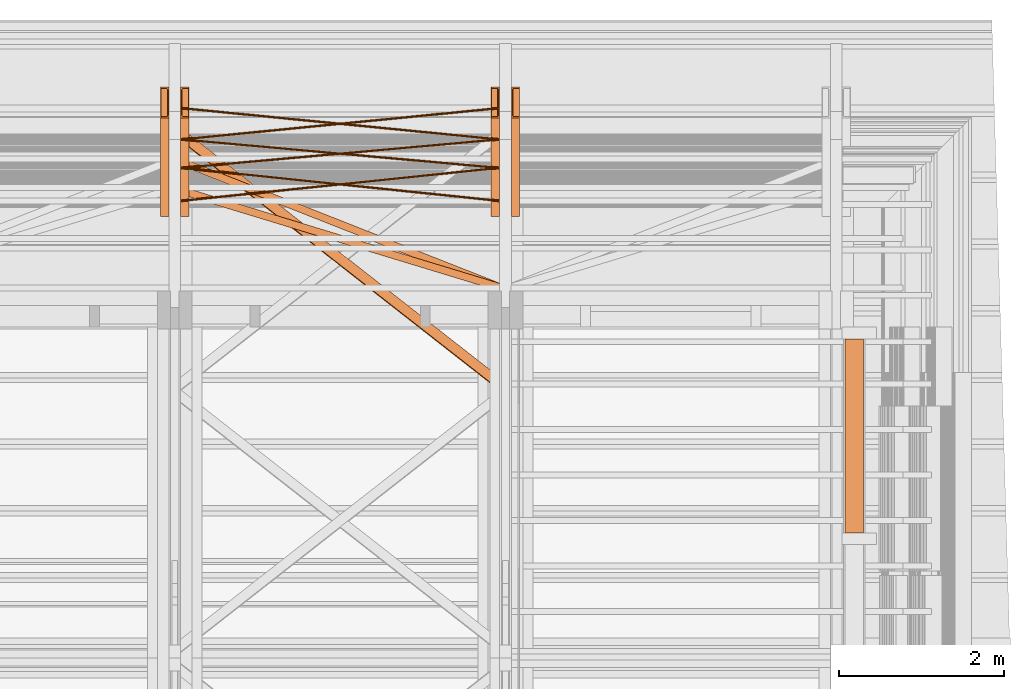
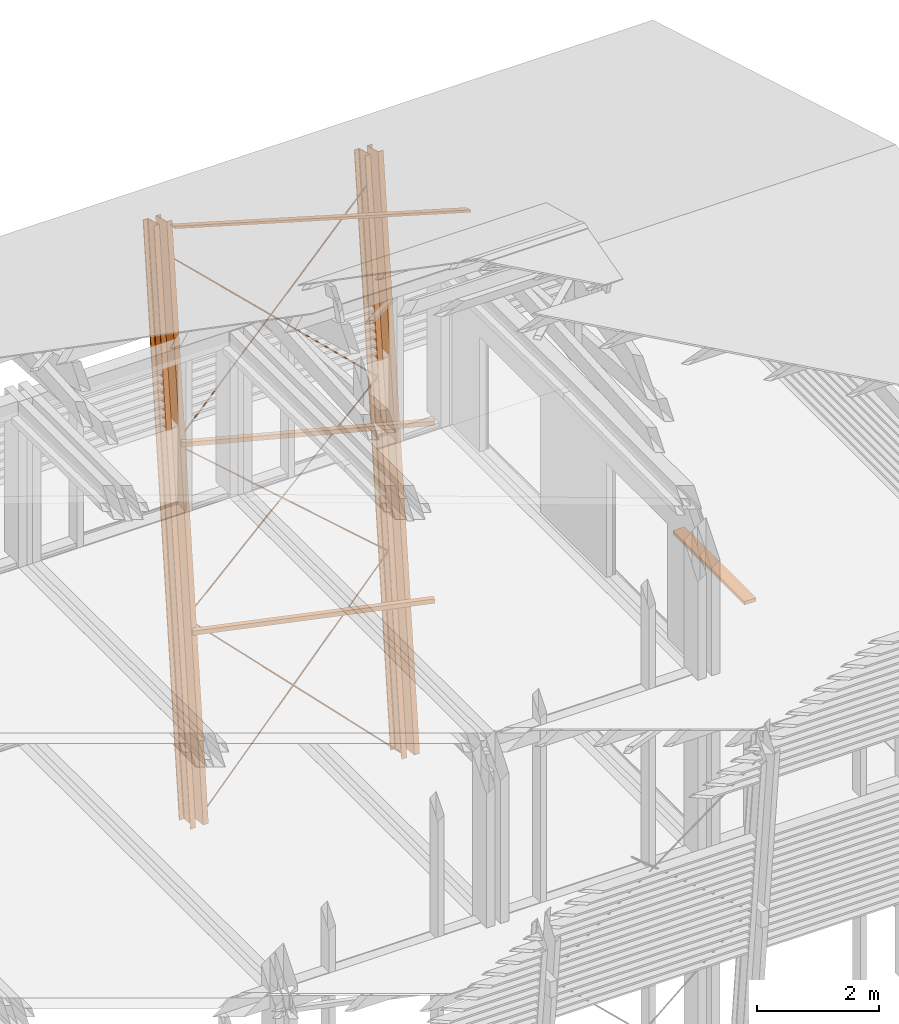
# One storey, part 47 of 48: 14 proxies.
"""IFC2X3 building model written with IfcOpenShell, lengths in metres."""

from ifc_helpers import new_model, si_unit, direction, frame, origin_with_axes, place, context, subcontext, project, spatial, faceted_brep, material, element, save


model = new_model("IFC2X3")

# Units and contexts
model_context = context("Model", 3, precision=1e-06, world=origin_with_axes(), true_north=direction((0.0, 1.0, 0.0)))
body_context = subcontext(model_context, "Body", "Model", "MODEL_VIEW")
ifc_project = project(units=[si_unit("LENGTHUNIT", "METRE"), si_unit("AREAUNIT", "SQUARE_METRE"), si_unit("VOLUMEUNIT", "CUBIC_METRE"), si_unit("PLANEANGLEUNIT", "RADIAN")], contexts=[model_context])

# Site, building, storey
site_placement = place(None, origin_with_axes())
site = spatial("IfcSite", under=ifc_project, at=site_placement, CompositionType="ELEMENT")
building_placement = place(site_placement, origin_with_axes())
building = spatial("IfcBuilding", under=site, at=building_placement, Name="Building 1", CompositionType="ELEMENT")
storey_placement = place(building_placement, origin_with_axes())
storey = spatial("IfcBuildingStorey", under=building, at=storey_placement, Name="Storey 1", CompositionType="ELEMENT", Elevation=0.0)

# Proxies
ifc_material_1 = material(Name="Acier")
proxy_1_placement = place(storey_placement, frame((65.4057437, -183.677965, 0.3), z_axis=(0.7050562, 0.0741265, 0.7052666), x_axis=(-0.7091514, 0.0736984, 0.7011938)))
element("IfcBuildingElementProxy", 1, at=proxy_1_placement, inside=storey, material=ifc_material_1, Name="CVLP", context=body_context, shape_type="Brep", body=[
    faceted_brep([(5.4036414, -0.0093969, 0.0034202), (0.0, -0.01, 0.0), (5.4036414, -0.01, 0.0), (0.0, -0.0093969, -0.0034202), (5.4036414, -0.0093969, -0.0034202), (0.0, -0.0076604, -0.0064279), (5.4036414, -0.0076604, -0.0064279), (0.0, -0.005, -0.0086603), (5.4036414, -0.005, -0.0086603), (0.0, -0.0017365, -0.0098481), (5.4036414, -0.0017365, -0.0098481), (0.0, 0.0017365, -0.0098481), (5.4036414, 0.0017365, -0.0098481), (0.0, 0.005, -0.0086603), (5.4036414, 0.005, -0.0086603), (0.0, 0.0076604, -0.0064279), (5.4036414, 0.0076604, -0.0064279), (0.0, 0.0093969, -0.0034202), (5.4036414, 0.0093969, -0.0034202), (0.0, 0.01, 0.0), (5.4036414, 0.01, 0.0), (0.0, 0.0093969, 0.0034202), (5.4036414, 0.0093969, 0.0034202), (0.0, 0.0076604, 0.0064279), (5.4036414, 0.0076604, 0.0064279), (0.0, 0.005, 0.0086603), (5.4036414, 0.005, 0.0086603), (0.0, 0.0017365, 0.0098481), (5.4036414, 0.0017365, 0.0098481), (0.0, -0.0017365, 0.0098481), (5.4036414, -0.0017365, 0.0098481), (0.0, -0.005, 0.0086603), (5.4036414, -0.005, 0.0086603), (0.0, -0.0076604, 0.0064279), (5.4036414, -0.0076604, 0.0064279), (0.0, -0.0093969, 0.0034202)], [[[0, 1, 2]], [[2, 1, 3]], [[2, 3, 4]], [[4, 3, 5]], [[4, 5, 6]], [[6, 5, 7]], [[6, 7, 8]], [[8, 7, 9]], [[8, 9, 10]], [[10, 9, 11]], [[10, 11, 12]], [[12, 11, 13]], [[12, 13, 14]], [[14, 13, 15]], [[14, 15, 16]], [[16, 15, 17]], [[16, 17, 18]], [[18, 17, 19]], [[18, 19, 20]], [[20, 19, 21]], [[20, 21, 22]], [[22, 21, 23]], [[22, 23, 24]], [[24, 23, 25]], [[24, 25, 26]], [[26, 25, 27]], [[26, 27, 28]], [[28, 27, 29]], [[28, 29, 30]], [[30, 29, 31]], [[30, 31, 32]], [[32, 31, 33]], [[32, 33, 34]], [[34, 33, 35]], [[34, 35, 0]], [[0, 35, 1]], [[10, 12, 8]], [[8, 12, 14]], [[8, 14, 6]], [[6, 14, 16]], [[6, 16, 4]], [[4, 16, 18]], [[4, 18, 2]], [[2, 18, 20]], [[2, 20, 0]], [[0, 20, 22]], [[0, 22, 34]], [[34, 22, 24]], [[34, 24, 32]], [[32, 24, 26]], [[32, 26, 30]], [[30, 26, 28]], [[29, 27, 31]], [[31, 27, 25]], [[31, 25, 33]], [[33, 25, 23]], [[33, 23, 35]], [[35, 23, 21]], [[35, 21, 1]], [[1, 21, 19]], [[1, 19, 3]], [[3, 19, 17]], [[3, 17, 5]], [[5, 17, 15]], [[5, 15, 7]], [[7, 15, 13]], [[7, 13, 9]], [[9, 13, 11]]]),
])
proxy_2_placement = place(storey_placement, frame((65.4057445, -183.279725, 4.089), z_axis=(0.6523288, 0.0792259, 0.753784), x_axis=(-0.7579361, 0.0681869, 0.6487553)))
element("IfcBuildingElementProxy", 2, at=proxy_2_placement, inside=storey, material=ifc_material_1, Name="CVLP", context=body_context, shape_type="Brep", body=[
    faceted_brep([(5.0558353, 0.0093969, -0.0034202), (0.0, 0.01, 0.0), (5.0558353, 0.01, 0.0), (0.0, 0.0093969, 0.0034202), (5.0558353, 0.0093969, 0.0034202), (0.0, 0.0076604, 0.0064279), (5.0558353, 0.0076604, 0.0064279), (0.0, 0.005, 0.0086603), (5.0558353, 0.005, 0.0086603), (0.0, 0.0017365, 0.0098481), (5.0558353, 0.0017365, 0.0098481), (0.0, -0.0017365, 0.0098481), (5.0558353, -0.0017365, 0.0098481), (0.0, -0.005, 0.0086603), (5.0558353, -0.005, 0.0086603), (0.0, -0.0076604, 0.0064279), (5.0558353, -0.0076604, 0.0064279), (0.0, -0.0093969, 0.0034202), (5.0558353, -0.0093969, 0.0034202), (0.0, -0.01, 0.0), (5.0558353, -0.01, 0.0), (0.0, -0.0093969, -0.0034202), (5.0558353, -0.0093969, -0.0034202), (0.0, -0.0076604, -0.0064279), (5.0558353, -0.0076604, -0.0064279), (0.0, -0.005, -0.0086603), (5.0558353, -0.005, -0.0086603), (0.0, -0.0017365, -0.0098481), (5.0558353, -0.0017365, -0.0098481), (0.0, 0.0017365, -0.0098481), (5.0558353, 0.0017365, -0.0098481), (0.0, 0.005, -0.0086603), (5.0558353, 0.005, -0.0086603), (0.0, 0.0076604, -0.0064279), (5.0558353, 0.0076604, -0.0064279), (0.0, 0.0093969, -0.0034202)], [[[0, 1, 2]], [[2, 1, 3]], [[2, 3, 4]], [[4, 3, 5]], [[4, 5, 6]], [[6, 5, 7]], [[6, 7, 8]], [[8, 7, 9]], [[8, 9, 10]], [[10, 9, 11]], [[10, 11, 12]], [[12, 11, 13]], [[12, 13, 14]], [[14, 13, 15]], [[14, 15, 16]], [[16, 15, 17]], [[16, 17, 18]], [[18, 17, 19]], [[18, 19, 20]], [[20, 19, 21]], [[20, 21, 22]], [[22, 21, 23]], [[22, 23, 24]], [[24, 23, 25]], [[24, 25, 26]], [[26, 25, 27]], [[26, 27, 28]], [[28, 27, 29]], [[28, 29, 30]], [[30, 29, 31]], [[30, 31, 32]], [[32, 31, 33]], [[32, 33, 34]], [[34, 33, 35]], [[34, 35, 0]], [[0, 35, 1]], [[10, 12, 8]], [[8, 12, 14]], [[8, 14, 6]], [[6, 14, 16]], [[6, 16, 4]], [[4, 16, 18]], [[4, 18, 2]], [[2, 18, 20]], [[2, 20, 0]], [[0, 20, 22]], [[0, 22, 34]], [[34, 22, 24]], [[34, 24, 32]], [[32, 24, 26]], [[32, 26, 30]], [[30, 26, 28]], [[29, 27, 31]], [[31, 27, 25]], [[31, 25, 33]], [[33, 25, 23]], [[33, 23, 35]], [[35, 23, 21]], [[35, 21, 1]], [[1, 21, 19]], [[1, 19, 3]], [[3, 19, 17]], [[3, 17, 5]], [[5, 17, 15]], [[5, 15, 7]], [[7, 15, 13]], [[7, 13, 9]], [[9, 13, 11]]]),
])
proxy_3_placement = place(storey_placement, frame((61.5737437, -183.279725, 4.089), z_axis=(-0.6523288, 0.0792259, 0.753784), x_axis=(0.7579361, 0.0681869, 0.6487553)))
element("IfcBuildingElementProxy", 3, at=proxy_3_placement, inside=storey, material=ifc_material_1, Name="CVLP", context=body_context, shape_type="Brep", body=[
    faceted_brep([(5.0558353, -0.0093969, 0.0034202), (0.0, -0.01, 0.0), (5.0558353, -0.01, 0.0), (0.0, -0.0093969, -0.0034202), (5.0558353, -0.0093969, -0.0034202), (0.0, -0.0076604, -0.0064279), (5.0558353, -0.0076604, -0.0064279), (0.0, -0.005, -0.0086603), (5.0558353, -0.005, -0.0086603), (0.0, -0.0017365, -0.0098481), (5.0558353, -0.0017365, -0.0098481), (0.0, 0.0017365, -0.0098481), (5.0558353, 0.0017365, -0.0098481), (0.0, 0.005, -0.0086603), (5.0558353, 0.005, -0.0086603), (0.0, 0.0076604, -0.0064279), (5.0558353, 0.0076604, -0.0064279), (0.0, 0.0093969, -0.0034202), (5.0558353, 0.0093969, -0.0034202), (0.0, 0.01, 0.0), (5.0558353, 0.01, 0.0), (0.0, 0.0093969, 0.0034202), (5.0558353, 0.0093969, 0.0034202), (0.0, 0.0076604, 0.0064279), (5.0558353, 0.0076604, 0.0064279), (0.0, 0.005, 0.0086603), (5.0558353, 0.005, 0.0086603), (0.0, 0.0017365, 0.0098481), (5.0558353, 0.0017365, 0.0098481), (0.0, -0.0017365, 0.0098481), (5.0558353, -0.0017365, 0.0098481), (0.0, -0.005, 0.0086603), (5.0558353, -0.005, 0.0086603), (0.0, -0.0076604, 0.0064279), (5.0558353, -0.0076604, 0.0064279), (0.0, -0.0093969, 0.0034202)], [[[0, 1, 2]], [[2, 1, 3]], [[2, 3, 4]], [[4, 3, 5]], [[4, 5, 6]], [[6, 5, 7]], [[6, 7, 8]], [[8, 7, 9]], [[8, 9, 10]], [[10, 9, 11]], [[10, 11, 12]], [[12, 11, 13]], [[12, 13, 14]], [[14, 13, 15]], [[14, 15, 16]], [[16, 15, 17]], [[16, 17, 18]], [[18, 17, 19]], [[18, 19, 20]], [[20, 19, 21]], [[20, 21, 22]], [[22, 21, 23]], [[22, 23, 24]], [[24, 23, 25]], [[24, 25, 26]], [[26, 25, 27]], [[26, 27, 28]], [[28, 27, 29]], [[28, 29, 30]], [[30, 29, 31]], [[30, 31, 32]], [[32, 31, 33]], [[32, 33, 34]], [[34, 33, 35]], [[34, 35, 0]], [[0, 35, 1]], [[10, 12, 8]], [[8, 12, 14]], [[8, 14, 6]], [[6, 14, 16]], [[6, 16, 4]], [[4, 16, 18]], [[4, 18, 2]], [[2, 18, 20]], [[2, 20, 0]], [[0, 20, 22]], [[0, 22, 34]], [[34, 22, 24]], [[34, 24, 32]], [[32, 24, 26]], [[32, 26, 30]], [[30, 26, 28]], [[29, 27, 31]], [[31, 27, 25]], [[31, 25, 33]], [[33, 25, 23]], [[33, 23, 35]], [[35, 23, 21]], [[35, 21, 1]], [[1, 21, 19]], [[1, 19, 3]], [[3, 19, 17]], [[3, 17, 5]], [[5, 17, 15]], [[5, 15, 7]], [[7, 15, 13]], [[7, 13, 9]], [[9, 13, 11]]]),
])
proxy_4_placement = place(storey_placement, frame((61.5737445, -183.677965, 0.3), z_axis=(-0.7050562, 0.0741265, 0.7052666), x_axis=(0.7091514, 0.0736984, 0.7011938)))
element("IfcBuildingElementProxy", 4, at=proxy_4_placement, inside=storey, material=ifc_material_1, Name="CVLP", context=body_context, shape_type="Brep", body=[
    faceted_brep([(5.4036414, 0.0093969, -0.0034202), (0.0, 0.01, 0.0), (5.4036414, 0.01, 0.0), (0.0, 0.0093969, 0.0034202), (5.4036414, 0.0093969, 0.0034202), (0.0, 0.0076604, 0.0064279), (5.4036414, 0.0076604, 0.0064279), (0.0, 0.005, 0.0086603), (5.4036414, 0.005, 0.0086603), (0.0, 0.0017365, 0.0098481), (5.4036414, 0.0017365, 0.0098481), (0.0, -0.0017365, 0.0098481), (5.4036414, -0.0017365, 0.0098481), (0.0, -0.005, 0.0086603), (5.4036414, -0.005, 0.0086603), (0.0, -0.0076604, 0.0064279), (5.4036414, -0.0076604, 0.0064279), (0.0, -0.0093969, 0.0034202), (5.4036414, -0.0093969, 0.0034202), (0.0, -0.01, 0.0), (5.4036414, -0.01, 0.0), (0.0, -0.0093969, -0.0034202), (5.4036414, -0.0093969, -0.0034202), (0.0, -0.0076604, -0.0064279), (5.4036414, -0.0076604, -0.0064279), (0.0, -0.005, -0.0086603), (5.4036414, -0.005, -0.0086603), (0.0, -0.0017365, -0.0098481), (5.4036414, -0.0017365, -0.0098481), (0.0, 0.0017365, -0.0098481), (5.4036414, 0.0017365, -0.0098481), (0.0, 0.005, -0.0086603), (5.4036414, 0.005, -0.0086603), (0.0, 0.0076604, -0.0064279), (5.4036414, 0.0076604, -0.0064279), (0.0, 0.0093969, -0.0034202)], [[[0, 1, 2]], [[2, 1, 3]], [[2, 3, 4]], [[4, 3, 5]], [[4, 5, 6]], [[6, 5, 7]], [[6, 7, 8]], [[8, 7, 9]], [[8, 9, 10]], [[10, 9, 11]], [[10, 11, 12]], [[12, 11, 13]], [[12, 13, 14]], [[14, 13, 15]], [[14, 15, 16]], [[16, 15, 17]], [[16, 17, 18]], [[18, 17, 19]], [[18, 19, 20]], [[20, 19, 21]], [[20, 21, 22]], [[22, 21, 23]], [[22, 23, 24]], [[24, 23, 25]], [[24, 25, 26]], [[26, 25, 27]], [[26, 27, 28]], [[28, 27, 29]], [[28, 29, 30]], [[30, 29, 31]], [[30, 31, 32]], [[32, 31, 33]], [[32, 33, 34]], [[34, 33, 35]], [[34, 35, 0]], [[0, 35, 1]], [[10, 12, 8]], [[8, 12, 14]], [[8, 14, 6]], [[6, 14, 16]], [[6, 16, 4]], [[4, 16, 18]], [[4, 18, 2]], [[2, 18, 20]], [[2, 20, 0]], [[0, 20, 22]], [[0, 22, 34]], [[34, 22, 24]], [[34, 24, 32]], [[32, 24, 26]], [[32, 26, 30]], [[30, 26, 28]], [[29, 27, 31]], [[31, 27, 25]], [[31, 25, 33]], [[33, 25, 23]], [[33, 23, 35]], [[35, 23, 21]], [[35, 21, 1]], [[1, 21, 19]], [[1, 19, 3]], [[3, 19, 17]], [[3, 17, 5]], [[5, 17, 15]], [[5, 15, 7]], [[7, 15, 13]], [[7, 13, 9]], [[9, 13, 11]]]),
])
proxy_5_placement = place(storey_placement, frame((65.4057437, -182.9349831, 7.369), z_axis=(0.6859491, 0.0760601, 0.7236634), x_axis=(-0.7276496, 0.0717012, 0.6821914)))
element("IfcBuildingElementProxy", 5, at=proxy_5_placement, inside=storey, material=ifc_material_1, Name="CVLP", context=body_context, shape_type="Brep", body=[
    faceted_brep([(5.2662712, -0.0093969, 0.0034202), (0.0, -0.01, 0.0), (5.2662712, -0.01, 0.0), (0.0, -0.0093969, -0.0034202), (5.2662712, -0.0093969, -0.0034202), (0.0, -0.0076604, -0.0064279), (5.2662712, -0.0076604, -0.0064279), (0.0, -0.005, -0.0086603), (5.2662712, -0.005, -0.0086603), (0.0, -0.0017365, -0.0098481), (5.2662712, -0.0017365, -0.0098481), (0.0, 0.0017365, -0.0098481), (5.2662712, 0.0017365, -0.0098481), (0.0, 0.005, -0.0086603), (5.2662712, 0.005, -0.0086603), (0.0, 0.0076604, -0.0064279), (5.2662712, 0.0076604, -0.0064279), (0.0, 0.0093969, -0.0034202), (5.2662712, 0.0093969, -0.0034202), (0.0, 0.01, 0.0), (5.2662712, 0.01, 0.0), (0.0, 0.0093969, 0.0034202), (5.2662712, 0.0093969, 0.0034202), (0.0, 0.0076604, 0.0064279), (5.2662712, 0.0076604, 0.0064279), (0.0, 0.005, 0.0086603), (5.2662712, 0.005, 0.0086603), (0.0, 0.0017365, 0.0098481), (5.2662712, 0.0017365, 0.0098481), (0.0, -0.0017365, 0.0098481), (5.2662712, -0.0017365, 0.0098481), (0.0, -0.005, 0.0086603), (5.2662712, -0.005, 0.0086603), (0.0, -0.0076604, 0.0064279), (5.2662712, -0.0076604, 0.0064279), (0.0, -0.0093969, 0.0034202)], [[[0, 1, 2]], [[2, 1, 3]], [[2, 3, 4]], [[4, 3, 5]], [[4, 5, 6]], [[6, 5, 7]], [[6, 7, 8]], [[8, 7, 9]], [[8, 9, 10]], [[10, 9, 11]], [[10, 11, 12]], [[12, 11, 13]], [[12, 13, 14]], [[14, 13, 15]], [[14, 15, 16]], [[16, 15, 17]], [[16, 17, 18]], [[18, 17, 19]], [[18, 19, 20]], [[20, 19, 21]], [[20, 21, 22]], [[22, 21, 23]], [[22, 23, 24]], [[24, 23, 25]], [[24, 25, 26]], [[26, 25, 27]], [[26, 27, 28]], [[28, 27, 29]], [[28, 29, 30]], [[30, 29, 31]], [[30, 31, 32]], [[32, 31, 33]], [[32, 33, 34]], [[34, 33, 35]], [[34, 35, 0]], [[0, 35, 1]], [[10, 12, 8]], [[8, 12, 14]], [[8, 14, 6]], [[6, 14, 16]], [[6, 16, 4]], [[4, 16, 18]], [[4, 18, 2]], [[2, 18, 20]], [[2, 20, 0]], [[0, 20, 22]], [[0, 22, 34]], [[34, 22, 24]], [[34, 24, 32]], [[32, 24, 26]], [[32, 26, 30]], [[30, 26, 28]], [[29, 27, 31]], [[31, 27, 25]], [[31, 25, 33]], [[33, 25, 23]], [[33, 23, 35]], [[35, 23, 21]], [[35, 21, 1]], [[1, 21, 19]], [[1, 19, 3]], [[3, 19, 17]], [[3, 17, 5]], [[5, 17, 15]], [[5, 15, 7]], [[7, 15, 13]], [[7, 13, 9]], [[9, 13, 11]]]),
])
proxy_6_placement = place(storey_placement, frame((61.5737445, -182.9349831, 7.369), z_axis=(-0.6859491, 0.0760601, 0.7236634), x_axis=(0.7276496, 0.0717012, 0.6821914)))
element("IfcBuildingElementProxy", 6, at=proxy_6_placement, inside=storey, material=ifc_material_1, Name="CVLP", context=body_context, shape_type="Brep", body=[
    faceted_brep([(5.2662712, 0.0093969, -0.0034202), (0.0, 0.01, 0.0), (5.2662712, 0.01, 0.0), (0.0, 0.0093969, 0.0034202), (5.2662712, 0.0093969, 0.0034202), (0.0, 0.0076604, 0.0064279), (5.2662712, 0.0076604, 0.0064279), (0.0, 0.005, 0.0086603), (5.2662712, 0.005, 0.0086603), (0.0, 0.0017365, 0.0098481), (5.2662712, 0.0017365, 0.0098481), (0.0, -0.0017365, 0.0098481), (5.2662712, -0.0017365, 0.0098481), (0.0, -0.005, 0.0086603), (5.2662712, -0.005, 0.0086603), (0.0, -0.0076604, 0.0064279), (5.2662712, -0.0076604, 0.0064279), (0.0, -0.0093969, 0.0034202), (5.2662712, -0.0093969, 0.0034202), (0.0, -0.01, 0.0), (5.2662712, -0.01, 0.0), (0.0, -0.0093969, -0.0034202), (5.2662712, -0.0093969, -0.0034202), (0.0, -0.0076604, -0.0064279), (5.2662712, -0.0076604, -0.0064279), (0.0, -0.005, -0.0086603), (5.2662712, -0.005, -0.0086603), (0.0, -0.0017365, -0.0098481), (5.2662712, -0.0017365, -0.0098481), (0.0, 0.0017365, -0.0098481), (5.2662712, 0.0017365, -0.0098481), (0.0, 0.005, -0.0086603), (5.2662712, 0.005, -0.0086603), (0.0, 0.0076604, -0.0064279), (5.2662712, 0.0076604, -0.0064279), (0.0, 0.0093969, -0.0034202)], [[[0, 1, 2]], [[2, 1, 3]], [[2, 3, 4]], [[4, 3, 5]], [[4, 5, 6]], [[6, 5, 7]], [[6, 7, 8]], [[8, 7, 9]], [[8, 9, 10]], [[10, 9, 11]], [[10, 11, 12]], [[12, 11, 13]], [[12, 13, 14]], [[14, 13, 15]], [[14, 15, 16]], [[16, 15, 17]], [[16, 17, 18]], [[18, 17, 19]], [[18, 19, 20]], [[20, 19, 21]], [[20, 21, 22]], [[22, 21, 23]], [[22, 23, 24]], [[24, 23, 25]], [[24, 25, 26]], [[26, 25, 27]], [[26, 27, 28]], [[28, 27, 29]], [[28, 29, 30]], [[30, 29, 31]], [[30, 31, 32]], [[32, 31, 33]], [[32, 33, 34]], [[34, 33, 35]], [[34, 35, 0]], [[0, 35, 1]], [[10, 12, 8]], [[8, 12, 14]], [[8, 14, 6]], [[6, 14, 16]], [[6, 16, 4]], [[4, 16, 18]], [[4, 18, 2]], [[2, 18, 20]], [[2, 20, 0]], [[0, 20, 22]], [[0, 22, 34]], [[34, 22, 24]], [[34, 24, 32]], [[32, 24, 26]], [[32, 26, 30]], [[30, 26, 28]], [[29, 27, 31]], [[31, 27, 25]], [[31, 25, 33]], [[33, 25, 23]], [[33, 23, 35]], [[35, 23, 21]], [[35, 21, 1]], [[1, 21, 19]], [[1, 19, 3]], [[3, 19, 17]], [[3, 17, 5]], [[5, 17, 15]], [[5, 15, 7]], [[7, 15, 13]], [[7, 13, 9]], [[9, 13, 11]]]),
])
proxy_7_placement = place(storey_placement, frame((65.3687437, -182.4859924, 11.6408612), z_axis=(0.0, -0.9945219, 0.1045285), x_axis=(0.0, -0.1045285, -0.9945219)))
element("IfcBuildingElementProxy", 7, at=proxy_7_placement, inside=storey, material=ifc_material_1, Name="Poteau", context=body_context, shape_type="Brep", body=[
    faceted_brep([(0.0563372, 0.0346296, -0.165699), (0.0556479, 0.0367655, -0.161347), (0.0601861, 0.051, -0.19), (0.0548889, 0.0375, -0.156555), (0.0, 0.051, 0.19), (0.0052972, 0.0375, 0.156555), (0.0045382, 0.0367655, 0.161347), (0.0592057, -0.051, -0.18381), (0.0579402, -0.0433995, -0.17582), (0.0601861, -0.051, -0.19), (0.0574199, 0.022299, -0.172535), (0.0572658, 0.0270483, -0.1715622), (0.0568935, 0.0312883, -0.1692116), (0.0588262, -0.0506328, -0.181414), (0.0584816, -0.0495648, -0.179238), (0.0582034, -0.0478941, -0.1774817), (0.0580172, -0.0457742, -0.1763064), (0.0038489, 0.0346296, 0.165699), (0.0032926, 0.0312883, 0.1692116), (0.0029203, 0.0270483, 0.1715622), (0.0027662, 0.022299, 0.172535), (0.0, -0.051, 0.19), (0.0022459, -0.0433995, 0.17582), (0.0009804, -0.051, 0.18381), (0.0021689, -0.0457742, 0.1763064), (0.0019827, -0.0478941, 0.1774817), (0.0017045, -0.0495648, 0.179238), (0.0013599, -0.0506328, 0.181414), (11.420672, 0.0375, -0.156555), (11.420672, 0.0367655, -0.161347), (11.420672, 0.0346296, -0.165699), (11.420672, 0.0312883, -0.1692116), (11.420672, 0.0270483, -0.1715622), (11.420672, 0.022299, -0.172535), (11.420672, -0.0433995, -0.17582), (11.420672, -0.0457742, -0.1763064), (11.420672, -0.0478941, -0.1774817), (11.420672, -0.0495648, -0.179238), (11.420672, -0.0506328, -0.181414), (11.420672, -0.051, -0.18381), (11.420672, -0.051, -0.19), (11.420672, 0.051, -0.19), (11.420672, 0.051, 0.19), (11.420672, -0.051, 0.19), (11.420672, -0.051, 0.18381), (11.420672, -0.0506328, 0.181414), (11.420672, -0.0495648, 0.179238), (11.420672, -0.0478941, 0.1774817), (11.420672, -0.0457742, 0.1763064), (11.420672, -0.0433995, 0.17582), (11.420672, 0.022299, 0.172535), (11.420672, 0.0270483, 0.1715622), (11.420672, 0.0312883, 0.1692116), (11.420672, 0.0346296, 0.165699), (11.420672, 0.0367655, 0.161347), (11.420672, 0.0375, 0.156555)], [[[0, 1, 2]], [[2, 1, 3]], [[2, 3, 4]], [[4, 3, 5]], [[4, 5, 6]], [[7, 8, 9]], [[9, 8, 10]], [[9, 10, 2]], [[2, 10, 11]], [[2, 11, 12]], [[7, 13, 8]], [[8, 13, 14]], [[8, 14, 15]], [[15, 16, 8]], [[12, 0, 2]], [[6, 17, 4]], [[4, 17, 18]], [[4, 18, 19]], [[19, 20, 4]], [[4, 20, 21]], [[20, 22, 21]], [[21, 22, 23]], [[24, 25, 22]], [[22, 25, 26]], [[22, 26, 27]], [[27, 23, 22]], [[3, 1, 28]], [[28, 1, 29]], [[1, 0, 29]], [[29, 0, 30]], [[0, 12, 30]], [[30, 12, 31]], [[12, 11, 31]], [[31, 11, 32]], [[11, 10, 32]], [[32, 10, 33]], [[10, 8, 33]], [[33, 8, 34]], [[8, 16, 34]], [[34, 16, 35]], [[16, 15, 35]], [[35, 15, 36]], [[15, 14, 36]], [[36, 14, 37]], [[14, 13, 37]], [[37, 13, 38]], [[13, 7, 38]], [[38, 7, 39]], [[7, 9, 39]], [[39, 9, 40]], [[9, 2, 40]], [[40, 2, 41]], [[4, 42, 2]], [[2, 42, 41]], [[43, 42, 21]], [[21, 42, 4]], [[21, 23, 43]], [[43, 23, 44]], [[23, 27, 44]], [[44, 27, 45]], [[27, 26, 45]], [[45, 26, 46]], [[26, 25, 46]], [[46, 25, 47]], [[25, 24, 47]], [[47, 24, 48]], [[24, 22, 48]], [[48, 22, 49]], [[22, 20, 49]], [[49, 20, 50]], [[20, 19, 50]], [[50, 19, 51]], [[19, 18, 51]], [[51, 18, 52]], [[18, 17, 52]], [[52, 17, 53]], [[17, 6, 53]], [[53, 6, 54]], [[6, 5, 54]], [[54, 5, 55]], [[5, 3, 55]], [[55, 3, 28]], [[53, 54, 42]], [[42, 54, 55]], [[42, 55, 41]], [[41, 55, 28]], [[41, 28, 29]], [[44, 49, 43]], [[43, 49, 50]], [[43, 50, 42]], [[42, 50, 51]], [[42, 51, 52]], [[44, 45, 49]], [[49, 45, 46]], [[49, 46, 47]], [[47, 48, 49]], [[52, 53, 42]], [[29, 30, 41]], [[41, 30, 31]], [[41, 31, 32]], [[32, 33, 41]], [[41, 33, 40]], [[33, 34, 40]], [[40, 34, 39]], [[34, 35, 39]], [[39, 35, 36]], [[39, 36, 37]], [[37, 38, 39]]]),
])
proxy_8_placement = place(storey_placement, frame((65.6107437, -182.4859924, 11.6408612), z_axis=(0.0, -0.9945219, 0.1045285), x_axis=(0.0, -0.1045285, -0.9945219)))
element("IfcBuildingElementProxy", 8, at=proxy_8_placement, inside=storey, material=ifc_material_1, Name="Poteau", context=body_context, shape_type="Brep", body=[
    faceted_brep([(0.0588262, 0.0506328, -0.181414), (0.0592057, 0.051, -0.18381), (0.0579402, 0.0433995, -0.17582), (0.0601861, 0.051, -0.19), (0.0574199, -0.022299, -0.172535), (0.0601861, -0.051, -0.19), (0.0572658, -0.0270483, -0.1715622), (0.0568935, -0.0312883, -0.1692116), (0.0045382, -0.0367655, 0.161347), (0.0052972, -0.0375, 0.156555), (0.0, -0.051, 0.19), (0.0548889, -0.0375, -0.156555), (0.0556479, -0.0367655, -0.161347), (0.0563372, -0.0346296, -0.165699), (0.0009804, 0.051, 0.18381), (0.0022459, 0.0433995, 0.17582), (0.0, 0.051, 0.19), (0.0027662, -0.022299, 0.172535), (0.0029203, -0.0270483, 0.1715622), (0.0032926, -0.0312883, 0.1692116), (0.0013599, 0.0506328, 0.181414), (0.0017045, 0.0495648, 0.179238), (0.0019827, 0.0478941, 0.1774817), (0.0021689, 0.0457742, 0.1763064), (0.0038489, -0.0346296, 0.165699), (0.0580172, 0.0457742, -0.1763064), (0.0582034, 0.0478941, -0.1774817), (0.0584816, 0.0495648, -0.179238), (11.420672, 0.0433995, 0.17582), (11.420672, 0.0457742, 0.1763064), (11.420672, 0.0478941, 0.1774817), (11.420672, 0.0495648, 0.179238), (11.420672, 0.0506328, 0.181414), (11.420672, 0.051, 0.18381), (11.420672, 0.051, 0.19), (11.420672, -0.051, 0.19), (11.420672, -0.051, -0.19), (11.420672, 0.051, -0.19), (11.420672, 0.051, -0.18381), (11.420672, 0.0506328, -0.181414), (11.420672, 0.0495648, -0.179238), (11.420672, 0.0478941, -0.1774817), (11.420672, 0.0457742, -0.1763064), (11.420672, 0.0433995, -0.17582), (11.420672, -0.022299, -0.172535), (11.420672, -0.0270483, -0.1715622), (11.420672, -0.0312883, -0.1692116), (11.420672, -0.0346296, -0.165699), (11.420672, -0.0367655, -0.161347), (11.420672, -0.0375, -0.156555), (11.420672, -0.0375, 0.156555), (11.420672, -0.0367655, 0.161347), (11.420672, -0.0346296, 0.165699), (11.420672, -0.0312883, 0.1692116), (11.420672, -0.0270483, 0.1715622), (11.420672, -0.022299, 0.172535)], [[[0, 1, 2]], [[2, 1, 3]], [[2, 3, 4]], [[4, 3, 5]], [[4, 5, 6]], [[6, 5, 7]], [[8, 9, 10]], [[10, 9, 11]], [[10, 11, 5]], [[5, 11, 12]], [[5, 12, 13]], [[14, 15, 16]], [[16, 15, 17]], [[16, 17, 10]], [[10, 17, 18]], [[10, 18, 19]], [[14, 20, 15]], [[15, 20, 21]], [[15, 21, 22]], [[22, 23, 15]], [[19, 24, 10]], [[10, 24, 8]], [[13, 7, 5]], [[25, 26, 2]], [[2, 26, 27]], [[2, 27, 0]], [[15, 23, 28]], [[28, 23, 29]], [[23, 22, 29]], [[29, 22, 30]], [[22, 21, 30]], [[30, 21, 31]], [[21, 20, 31]], [[31, 20, 32]], [[20, 14, 32]], [[32, 14, 33]], [[16, 34, 14]], [[14, 34, 33]], [[10, 5, 35]], [[35, 5, 36]], [[5, 3, 36]], [[36, 3, 37]], [[1, 38, 3]], [[3, 38, 37]], [[1, 0, 38]], [[38, 0, 39]], [[0, 27, 39]], [[39, 27, 40]], [[27, 26, 40]], [[40, 26, 41]], [[26, 25, 41]], [[41, 25, 42]], [[25, 2, 42]], [[42, 2, 43]], [[4, 44, 2]], [[2, 44, 43]], [[4, 6, 44]], [[44, 6, 45]], [[6, 7, 45]], [[45, 7, 46]], [[7, 13, 46]], [[46, 13, 47]], [[13, 12, 47]], [[47, 12, 48]], [[12, 11, 48]], [[48, 11, 49]], [[9, 50, 11]], [[11, 50, 49]], [[9, 8, 50]], [[50, 8, 51]], [[8, 24, 51]], [[51, 24, 52]], [[24, 19, 52]], [[52, 19, 53]], [[19, 18, 53]], [[53, 18, 54]], [[18, 17, 54]], [[54, 17, 55]], [[15, 28, 17]], [[17, 28, 55]], [[35, 34, 10]], [[10, 34, 16]], [[48, 49, 36]], [[36, 49, 50]], [[36, 50, 35]], [[35, 50, 51]], [[35, 51, 52]], [[41, 42, 38]], [[38, 42, 43]], [[38, 43, 37]], [[37, 43, 44]], [[37, 44, 36]], [[36, 44, 45]], [[36, 45, 46]], [[39, 40, 38]], [[38, 40, 41]], [[46, 47, 36]], [[36, 47, 48]], [[52, 53, 35]], [[35, 53, 54]], [[35, 54, 55]], [[35, 55, 34]], [[34, 55, 28]], [[34, 28, 33]], [[33, 28, 32]], [[29, 30, 28]], [[28, 30, 31]], [[28, 31, 32]]]),
])
proxy_9_placement = place(storey_placement, frame((61.6107437, -182.4859924, 11.6408612), z_axis=(0.0, -0.9945219, 0.1045285), x_axis=(0.0, -0.1045285, -0.9945219)))
element("IfcBuildingElementProxy", 9, at=proxy_9_placement, inside=storey, material=ifc_material_1, Name="Poteau", context=body_context, shape_type="Brep", body=[
    faceted_brep([(0.0588262, 0.0506328, -0.181414), (0.0592057, 0.051, -0.18381), (0.0579402, 0.0433995, -0.17582), (0.0601861, 0.051, -0.19), (0.0574199, -0.022299, -0.172535), (0.0601861, -0.051, -0.19), (0.0572658, -0.0270483, -0.1715622), (0.0568935, -0.0312883, -0.1692116), (0.0045382, -0.0367655, 0.161347), (0.0052972, -0.0375, 0.156555), (0.0, -0.051, 0.19), (0.0548889, -0.0375, -0.156555), (0.0556479, -0.0367655, -0.161347), (0.0563372, -0.0346296, -0.165699), (0.0009804, 0.051, 0.18381), (0.0022459, 0.0433995, 0.17582), (0.0, 0.051, 0.19), (0.0027662, -0.022299, 0.172535), (0.0029203, -0.0270483, 0.1715622), (0.0032926, -0.0312883, 0.1692116), (0.0013599, 0.0506328, 0.181414), (0.0017045, 0.0495648, 0.179238), (0.0019827, 0.0478941, 0.1774817), (0.0021689, 0.0457742, 0.1763064), (0.0038489, -0.0346296, 0.165699), (0.0580172, 0.0457742, -0.1763064), (0.0582034, 0.0478941, -0.1774817), (0.0584816, 0.0495648, -0.179238), (11.420672, 0.0433995, 0.17582), (11.420672, 0.0457742, 0.1763064), (11.420672, 0.0478941, 0.1774817), (11.420672, 0.0495648, 0.179238), (11.420672, 0.0506328, 0.181414), (11.420672, 0.051, 0.18381), (11.420672, 0.051, 0.19), (11.420672, -0.051, 0.19), (11.420672, -0.051, -0.19), (11.420672, 0.051, -0.19), (11.420672, 0.051, -0.18381), (11.420672, 0.0506328, -0.181414), (11.420672, 0.0495648, -0.179238), (11.420672, 0.0478941, -0.1774817), (11.420672, 0.0457742, -0.1763064), (11.420672, 0.0433995, -0.17582), (11.420672, -0.022299, -0.172535), (11.420672, -0.0270483, -0.1715622), (11.420672, -0.0312883, -0.1692116), (11.420672, -0.0346296, -0.165699), (11.420672, -0.0367655, -0.161347), (11.420672, -0.0375, -0.156555), (11.420672, -0.0375, 0.156555), (11.420672, -0.0367655, 0.161347), (11.420672, -0.0346296, 0.165699), (11.420672, -0.0312883, 0.1692116), (11.420672, -0.0270483, 0.1715622), (11.420672, -0.022299, 0.172535)], [[[0, 1, 2]], [[2, 1, 3]], [[2, 3, 4]], [[4, 3, 5]], [[4, 5, 6]], [[6, 5, 7]], [[8, 9, 10]], [[10, 9, 11]], [[10, 11, 5]], [[5, 11, 12]], [[5, 12, 13]], [[14, 15, 16]], [[16, 15, 17]], [[16, 17, 10]], [[10, 17, 18]], [[10, 18, 19]], [[14, 20, 15]], [[15, 20, 21]], [[15, 21, 22]], [[22, 23, 15]], [[19, 24, 10]], [[10, 24, 8]], [[13, 7, 5]], [[25, 26, 2]], [[2, 26, 27]], [[2, 27, 0]], [[15, 23, 28]], [[28, 23, 29]], [[23, 22, 29]], [[29, 22, 30]], [[22, 21, 30]], [[30, 21, 31]], [[21, 20, 31]], [[31, 20, 32]], [[20, 14, 32]], [[32, 14, 33]], [[16, 34, 14]], [[14, 34, 33]], [[10, 5, 35]], [[35, 5, 36]], [[5, 3, 36]], [[36, 3, 37]], [[1, 38, 3]], [[3, 38, 37]], [[1, 0, 38]], [[38, 0, 39]], [[0, 27, 39]], [[39, 27, 40]], [[27, 26, 40]], [[40, 26, 41]], [[26, 25, 41]], [[41, 25, 42]], [[25, 2, 42]], [[42, 2, 43]], [[4, 44, 2]], [[2, 44, 43]], [[4, 6, 44]], [[44, 6, 45]], [[6, 7, 45]], [[45, 7, 46]], [[7, 13, 46]], [[46, 13, 47]], [[13, 12, 47]], [[47, 12, 48]], [[12, 11, 48]], [[48, 11, 49]], [[9, 50, 11]], [[11, 50, 49]], [[9, 8, 50]], [[50, 8, 51]], [[8, 24, 51]], [[51, 24, 52]], [[24, 19, 52]], [[52, 19, 53]], [[19, 18, 53]], [[53, 18, 54]], [[18, 17, 54]], [[54, 17, 55]], [[15, 28, 17]], [[17, 28, 55]], [[35, 34, 10]], [[10, 34, 16]], [[48, 49, 36]], [[36, 49, 50]], [[36, 50, 35]], [[35, 50, 51]], [[35, 51, 52]], [[41, 42, 38]], [[38, 42, 43]], [[38, 43, 37]], [[37, 43, 44]], [[37, 44, 36]], [[36, 44, 45]], [[36, 45, 46]], [[39, 40, 38]], [[38, 40, 41]], [[46, 47, 36]], [[36, 47, 48]], [[52, 53, 35]], [[35, 53, 54]], [[35, 54, 55]], [[35, 55, 34]], [[34, 55, 28]], [[34, 28, 33]], [[33, 28, 32]], [[29, 30, 28]], [[28, 30, 31]], [[28, 31, 32]]]),
])
proxy_10_placement = place(storey_placement, frame((61.3687437, -182.4859924, 11.6408612), z_axis=(0.0, -0.9945219, 0.1045285), x_axis=(0.0, -0.1045285, -0.9945219)))
element("IfcBuildingElementProxy", 10, at=proxy_10_placement, inside=storey, material=ifc_material_1, Name="Poteau", context=body_context, shape_type="Brep", body=[
    faceted_brep([(0.0563372, 0.0346296, -0.165699), (0.0556479, 0.0367655, -0.161347), (0.0601861, 0.051, -0.19), (0.0548889, 0.0375, -0.156555), (0.0, 0.051, 0.19), (0.0052972, 0.0375, 0.156555), (0.0045382, 0.0367655, 0.161347), (0.0592057, -0.051, -0.18381), (0.0579402, -0.0433995, -0.17582), (0.0601861, -0.051, -0.19), (0.0574199, 0.022299, -0.172535), (0.0572658, 0.0270483, -0.1715622), (0.0568935, 0.0312883, -0.1692116), (0.0588262, -0.0506328, -0.181414), (0.0584816, -0.0495648, -0.179238), (0.0582034, -0.0478941, -0.1774817), (0.0580172, -0.0457742, -0.1763064), (0.0038489, 0.0346296, 0.165699), (0.0032926, 0.0312883, 0.1692116), (0.0029203, 0.0270483, 0.1715622), (0.0027662, 0.022299, 0.172535), (0.0, -0.051, 0.19), (0.0022459, -0.0433995, 0.17582), (0.0009804, -0.051, 0.18381), (0.0021689, -0.0457742, 0.1763064), (0.0019827, -0.0478941, 0.1774817), (0.0017045, -0.0495648, 0.179238), (0.0013599, -0.0506328, 0.181414), (11.420672, 0.0375, -0.156555), (11.420672, 0.0367655, -0.161347), (11.420672, 0.0346296, -0.165699), (11.420672, 0.0312883, -0.1692116), (11.420672, 0.0270483, -0.1715622), (11.420672, 0.022299, -0.172535), (11.420672, -0.0433995, -0.17582), (11.420672, -0.0457742, -0.1763064), (11.420672, -0.0478941, -0.1774817), (11.420672, -0.0495648, -0.179238), (11.420672, -0.0506328, -0.181414), (11.420672, -0.051, -0.18381), (11.420672, -0.051, -0.19), (11.420672, 0.051, -0.19), (11.420672, 0.051, 0.19), (11.420672, -0.051, 0.19), (11.420672, -0.051, 0.18381), (11.420672, -0.0506328, 0.181414), (11.420672, -0.0495648, 0.179238), (11.420672, -0.0478941, 0.1774817), (11.420672, -0.0457742, 0.1763064), (11.420672, -0.0433995, 0.17582), (11.420672, 0.022299, 0.172535), (11.420672, 0.0270483, 0.1715622), (11.420672, 0.0312883, 0.1692116), (11.420672, 0.0346296, 0.165699), (11.420672, 0.0367655, 0.161347), (11.420672, 0.0375, 0.156555)], [[[0, 1, 2]], [[2, 1, 3]], [[2, 3, 4]], [[4, 3, 5]], [[4, 5, 6]], [[7, 8, 9]], [[9, 8, 10]], [[9, 10, 2]], [[2, 10, 11]], [[2, 11, 12]], [[7, 13, 8]], [[8, 13, 14]], [[8, 14, 15]], [[15, 16, 8]], [[12, 0, 2]], [[6, 17, 4]], [[4, 17, 18]], [[4, 18, 19]], [[19, 20, 4]], [[4, 20, 21]], [[20, 22, 21]], [[21, 22, 23]], [[24, 25, 22]], [[22, 25, 26]], [[22, 26, 27]], [[27, 23, 22]], [[3, 1, 28]], [[28, 1, 29]], [[1, 0, 29]], [[29, 0, 30]], [[0, 12, 30]], [[30, 12, 31]], [[12, 11, 31]], [[31, 11, 32]], [[11, 10, 32]], [[32, 10, 33]], [[10, 8, 33]], [[33, 8, 34]], [[8, 16, 34]], [[34, 16, 35]], [[16, 15, 35]], [[35, 15, 36]], [[15, 14, 36]], [[36, 14, 37]], [[14, 13, 37]], [[37, 13, 38]], [[13, 7, 38]], [[38, 7, 39]], [[7, 9, 39]], [[39, 9, 40]], [[9, 2, 40]], [[40, 2, 41]], [[4, 42, 2]], [[2, 42, 41]], [[43, 42, 21]], [[21, 42, 4]], [[21, 23, 43]], [[43, 23, 44]], [[23, 27, 44]], [[44, 27, 45]], [[27, 26, 45]], [[45, 26, 46]], [[26, 25, 46]], [[46, 25, 47]], [[25, 24, 47]], [[47, 24, 48]], [[24, 22, 48]], [[48, 22, 49]], [[22, 20, 49]], [[49, 20, 50]], [[20, 19, 50]], [[50, 19, 51]], [[19, 18, 51]], [[51, 18, 52]], [[18, 17, 52]], [[52, 17, 53]], [[17, 6, 53]], [[53, 6, 54]], [[6, 5, 54]], [[54, 5, 55]], [[5, 3, 55]], [[55, 3, 28]], [[53, 54, 42]], [[42, 54, 55]], [[42, 55, 41]], [[41, 55, 28]], [[41, 28, 29]], [[44, 49, 43]], [[43, 49, 50]], [[43, 50, 42]], [[42, 50, 51]], [[42, 51, 52]], [[44, 45, 49]], [[49, 45, 46]], [[49, 46, 47]], [[47, 48, 49]], [[52, 53, 42]], [[29, 30, 41]], [[41, 30, 31]], [[41, 31, 32]], [[32, 33, 41]], [[41, 33, 40]], [[33, 34, 40]], [[40, 34, 39]], [[34, 35, 39]], [[39, 35, 36]], [[39, 36, 37]], [[37, 38, 39]]]),
])
ifc_material_2 = material(Name="GL28h")
proxy_11_placement = place(storey_placement, frame((69.7097437, -185.3464885, 4.25), z_axis=(-1.0, 0.0, 0.0), x_axis=(0.0, -1.0, 0.0)))
element("IfcBuildingElementProxy", 11, at=proxy_11_placement, inside=storey, material=ifc_material_2, Name="lisse", context=body_context, shape_type="Brep", body=[
    faceted_brep([(2.3515817, -0.035, 0.11), (2.3515817, -0.035, -0.11), (2.3515817, 0.035, -0.11), (2.3515817, 0.035, 0.11), (0.0, 0.035, 0.11), (0.0, -0.035, 0.11), (0.0, 0.035, -0.11), (0.0, -0.035, -0.11)], [[[0, 1, 2, 3]], [[0, 3, 4, 5]], [[3, 2, 6, 4]], [[1, 0, 5, 7]], [[2, 1, 7, 6]], [[5, 4, 6, 7]]]),
])
proxy_12_placement = place(storey_placement, frame((61.5219768, -182.8443274, 11.682812), z_axis=(-0.6294478, -0.7505657, 0.2011135), x_axis=(0.7770428, -0.6079999, 0.1629131)))
element("IfcBuildingElementProxy", 12, at=proxy_12_placement, inside=storey, material=ifc_material_2, Name="CVT", context=body_context, shape_type="Brep", body=[
    faceted_brep([(5.0647581, -0.0225, 0.06), (4.9675515, -0.0225, -0.06), (4.9675515, 0.0225, -0.06), (5.0647581, 0.0225, 0.06), (0.0972067, -0.0225, 0.06), (0.0, -0.0225, -0.06), (0.0972067, 0.0225, 0.06), (0.0, 0.0225, -0.06)], [[[0, 1, 2, 3]], [[1, 0, 4, 5]], [[6, 7, 5, 4]], [[6, 4, 0, 3]], [[3, 2, 7, 6]], [[2, 1, 5, 7]]]),
])
proxy_13_placement = place(storey_placement, frame((65.4417407, -184.7306656, 7.544), z_axis=(-0.3666108, -0.9303744, 0.0), x_axis=(-0.9303744, 0.3666108, 0.0)))
element("IfcBuildingElementProxy", 13, at=proxy_13_placement, inside=storey, material=ifc_material_2, Name="CVLP", context=body_context, shape_type="Brep", body=[
    faceted_brep([(4.196153, -0.045, -0.045), (4.196153, -0.045, 0.045), (0.0, -0.045, 0.045), (0.0, -0.045, -0.045), (4.196153, 0.045, 0.045), (0.0, 0.045, 0.045), (4.196153, 0.045, -0.045), (0.0, 0.045, -0.045)], [[[0, 1, 2, 3]], [[1, 4, 5, 2]], [[4, 6, 7, 5]], [[6, 0, 3, 7]], [[1, 0, 6, 4]], [[7, 3, 2, 5]]]),
])
proxy_14_placement = place(storey_placement, frame((65.4372017, -184.7290801, 3.984), z_axis=(-0.2909669, -0.9567331, 0.0), x_axis=(-0.9567331, 0.2909669, 0.0)))
element("IfcBuildingElementProxy", 14, at=proxy_14_placement, inside=storey, material=ifc_material_2, Name="CVLP", context=body_context, shape_type="Brep", body=[
    faceted_brep([(4.071058, -0.045, -0.045), (4.071058, -0.045, 0.045), (0.0, -0.045, 0.045), (0.0, -0.045, -0.045), (4.071058, 0.045, 0.045), (0.0, 0.045, 0.045), (4.071058, 0.045, -0.045), (0.0, 0.045, -0.045)], [[[0, 1, 2, 3]], [[1, 4, 5, 2]], [[4, 6, 7, 5]], [[6, 0, 3, 7]], [[1, 0, 6, 4]], [[7, 3, 2, 5]]]),
])

save(model, "model.ifc")
